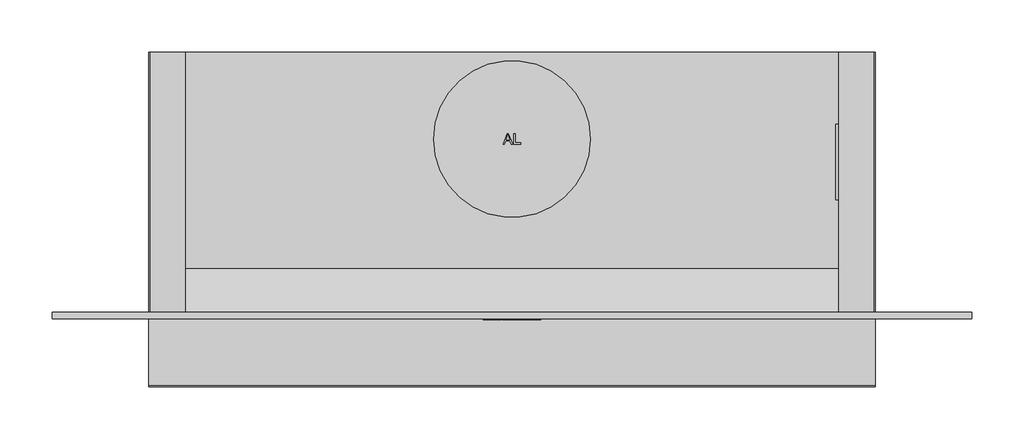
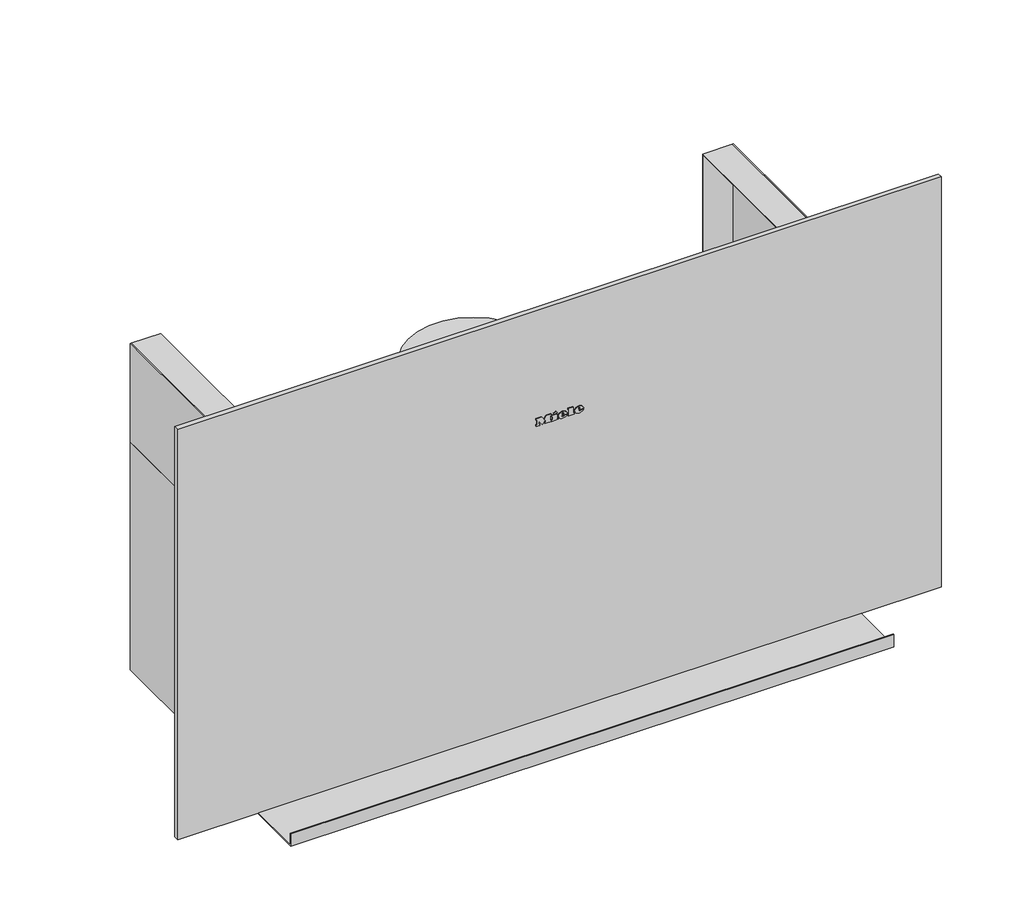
# Not in any storey: 1 proxy.
"""IFC4 building model written with IfcOpenShell, lengths in millimetres."""

from ifc_helpers import new_model, si_unit, origin, place, context, project, spatial, transform, mapped, element, save
from components import specialty_equipment_fa54f33d

model = new_model("IFC4")

# Units and contexts
model_context = context("Model", 3, world=origin())
ifc_project = project(units=[si_unit("LENGTHUNIT", "METRE", prefix="MILLI")], contexts=[model_context])

# Site, building
site = spatial("IfcSite", under=ifc_project)
building = spatial("IfcBuilding", under=site)

# Proxy
placement = place(None, origin())
specialty_equipment_shape = specialty_equipment_fa54f33d(model_context)
element("IfcBuildingElementProxy", 1, Name="12529800_KZ_DA9092W_OBSW : 28909240_KZ_12529800_DA9092W_OBSW", ObjectType="12529800_KZ_DA9092W_OBSW : 28909240_KZ_12529800_DA9092W_OBSW", at=placement, inside=building, context=model_context, shape_type="MappedRepresentation", body=[
    mapped(specialty_equipment_shape, transform((0.0, 0.0, 0.0), x_axis=(1.0, 0.0, 0.0), y_axis=(0.0, 1.0, 0.0), z_axis=(0.0, 0.0, 1.0))),
])

save(model, "model.ifc")
